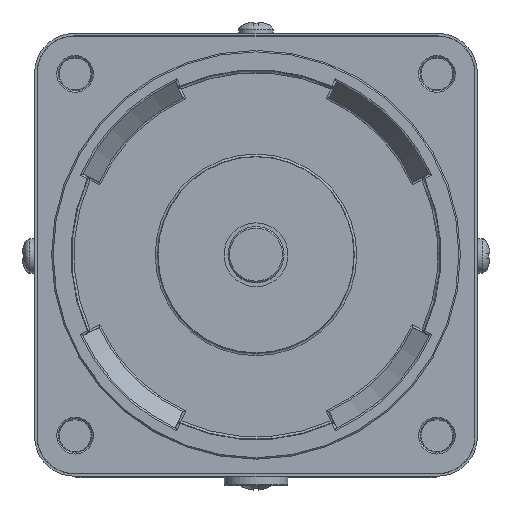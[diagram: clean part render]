
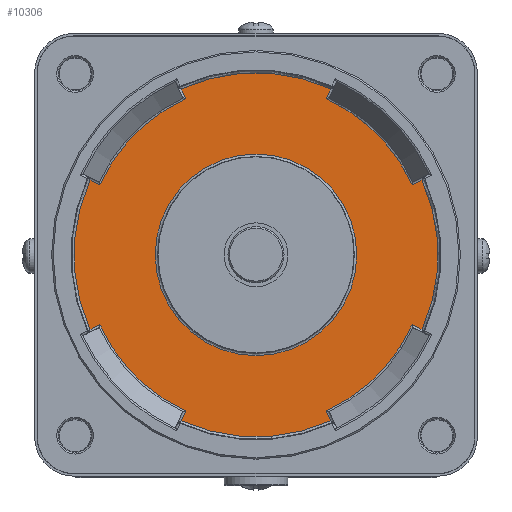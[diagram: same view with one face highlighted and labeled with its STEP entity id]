
A CAD part, top view. The second image highlights one B-rep face of the part: STEP entity #10306.
In plain terms, the highlighted planar face has unit normal (0, 0, 1).
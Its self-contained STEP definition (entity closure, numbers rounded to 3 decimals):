
#119 = DIRECTION ( 'NONE',  ( 1., 0., 0. ) ) ;
#202 = VERTEX_POINT ( 'NONE', #7850 ) ;
#356 = LINE ( 'NONE', #1412, #6315 ) ;
#436 = VERTEX_POINT ( 'NONE', #4239 ) ;
#474 = EDGE_CURVE ( 'NONE', #2074, #4623, #9477, .T. ) ;
#632 = CARTESIAN_POINT ( 'NONE',  ( 0., 0., -2.5 ) ) ;
#718 = DIRECTION ( 'NONE',  ( 1., 0., 0. ) ) ;
#967 = CIRCLE ( 'NONE', #13574, 37.013 ) ;
#1039 = VERTEX_POINT ( 'NONE', #12535 ) ;
#1179 = DIRECTION ( 'NONE',  ( 0., 0., 1. ) ) ;
#1412 = CARTESIAN_POINT ( 'NONE',  ( -31.932, -14.338, -2.5 ) ) ;
#1661 = CARTESIAN_POINT ( 'NONE',  ( 0., 0., -2.5 ) ) ;
#1716 = LINE ( 'NONE', #6025, #12448 ) ;
#1773 = CARTESIAN_POINT ( 'NONE',  ( 0., 0., -2.5 ) ) ;
#1875 = VERTEX_POINT ( 'NONE', #13392 ) ;
#2074 = VERTEX_POINT ( 'NONE', #4703 ) ;
#2097 = VECTOR ( 'NONE', #11903, 1000. ) ;
#2190 = EDGE_CURVE ( 'NONE', #3700, #2829, #7030, .T. ) ;
#2225 = LINE ( 'NONE', #4414, #8191 ) ;
#2254 = CIRCLE ( 'NONE', #8118, 34.775 ) ;
#2317 = ORIENTED_EDGE ( 'NONE', *, *, #10233, .T. ) ;
#2352 = VERTEX_POINT ( 'NONE', #5754 ) ;
#2433 = ORIENTED_EDGE ( 'NONE', *, *, #2190, .T. ) ;
#2642 = ORIENTED_EDGE ( 'NONE', *, *, #8923, .T. ) ;
#2749 = AXIS2_PLACEMENT_3D ( 'NONE', #9372, #3086, #13787 ) ;
#2769 = DIRECTION ( 'NONE',  ( 0., 0., 1. ) ) ;
#2829 = VERTEX_POINT ( 'NONE', #4672 ) ;
#2999 = ORIENTED_EDGE ( 'NONE', *, *, #6378, .T. ) ;
#3086 = DIRECTION ( 'NONE',  ( 0., 0., 1. ) ) ;
#3092 = CARTESIAN_POINT ( 'NONE',  ( 0.211, 0.453, -2.5 ) ) ;
#3176 = EDGE_LOOP ( 'NONE', ( #2642, #10543, #3702, #13702, #5314, #2433, #2999, #7935, #8210, #3765, #10913, #5411, #7352, #12036, #6890, #3340 ) ) ;
#3202 = CARTESIAN_POINT ( 'NONE',  ( 33.753, -15.188, -2.5 ) ) ;
#3340 = ORIENTED_EDGE ( 'NONE', *, *, #11920, .T. ) ;
#3382 = EDGE_CURVE ( 'NONE', #1039, #3700, #2225, .T. ) ;
#3421 = AXIS2_PLACEMENT_3D ( 'NONE', #5813, #12163, #12244 ) ;
#3627 = CIRCLE ( 'NONE', #11054, 20.491 ) ;
#3649 = CARTESIAN_POINT ( 'NONE',  ( -31.725, 14.242, -2.5 ) ) ;
#3700 = VERTEX_POINT ( 'NONE', #5044 ) ;
#3702 = ORIENTED_EDGE ( 'NONE', *, *, #12925, .T. ) ;
#3765 = ORIENTED_EDGE ( 'NONE', *, *, #474, .T. ) ;
#3883 = CIRCLE ( 'NONE', #3421, 34.775 ) ;
#3926 = DIRECTION ( 'NONE',  ( 1., 0., 0. ) ) ;
#4171 = LINE ( 'NONE', #5293, #5384 ) ;
#4208 = DIRECTION ( 'NONE',  ( 0., 0., 1. ) ) ;
#4239 = CARTESIAN_POINT ( 'NONE',  ( -14.242, -31.725, -2.5 ) ) ;
#4263 = VERTEX_POINT ( 'NONE', #11084 ) ;
#4414 = CARTESIAN_POINT ( 'NONE',  ( -0.453, 0.211, -2.5 ) ) ;
#4440 = DIRECTION ( 'NONE',  ( 0., 0., 1. ) ) ;
#4606 = LINE ( 'NONE', #7583, #11844 ) ;
#4623 = VERTEX_POINT ( 'NONE', #12329 ) ;
#4672 = CARTESIAN_POINT ( 'NONE',  ( -15.188, 33.753, -2.5 ) ) ;
#4685 = DIRECTION ( 'NONE',  ( -0.423, 0.906, 0. ) ) ;
#4703 = CARTESIAN_POINT ( 'NONE',  ( -33.753, 15.188, -2.5 ) ) ;
#4761 = CARTESIAN_POINT ( 'NONE',  ( 14.338, -31.932, -2.5 ) ) ;
#4943 = CARTESIAN_POINT ( 'NONE',  ( 0., 0., -2.5 ) ) ;
#4999 = EDGE_CURVE ( 'NONE', #2352, #8194, #8219, .T. ) ;
#5044 = CARTESIAN_POINT ( 'NONE',  ( 15.188, 33.753, -2.5 ) ) ;
#5053 = FACE_BOUND ( 'NONE', #11175, .T. ) ;
#5220 = VERTEX_POINT ( 'NONE', #5451 ) ;
#5277 = VERTEX_POINT ( 'NONE', #3202 ) ;
#5293 = CARTESIAN_POINT ( 'NONE',  ( 0.453, -0.211, -2.5 ) ) ;
#5314 = ORIENTED_EDGE ( 'NONE', *, *, #3382, .T. ) ;
#5384 = VECTOR ( 'NONE', #12971, 1000. ) ;
#5411 = ORIENTED_EDGE ( 'NONE', *, *, #11593, .T. ) ;
#5451 = CARTESIAN_POINT ( 'NONE',  ( 31.725, -14.242, -2.5 ) ) ;
#5697 = LINE ( 'NONE', #12184, #2097 ) ;
#5754 = CARTESIAN_POINT ( 'NONE',  ( 15.188, -33.753, -2.5 ) ) ;
#5760 = VERTEX_POINT ( 'NONE', #13324 ) ;
#5813 = CARTESIAN_POINT ( 'NONE',  ( 0., 0., -2.5 ) ) ;
#5973 = DIRECTION ( 'NONE',  ( 0., 0., -1. ) ) ;
#6025 = CARTESIAN_POINT ( 'NONE',  ( -0.211, -0.453, -2.5 ) ) ;
#6083 = AXIS2_PLACEMENT_3D ( 'NONE', #1773, #6088, #718 ) ;
#6088 = DIRECTION ( 'NONE',  ( 0., 0., 1. ) ) ;
#6178 = DIRECTION ( 'NONE',  ( 1., 0., 0. ) ) ;
#6218 = VECTOR ( 'NONE', #4685, 1000. ) ;
#6315 = VECTOR ( 'NONE', #6922, 1000. ) ;
#6378 = EDGE_CURVE ( 'NONE', #2829, #5760, #4606, .T. ) ;
#6890 = ORIENTED_EDGE ( 'NONE', *, *, #4999, .T. ) ;
#6922 = DIRECTION ( 'NONE',  ( 0.906, 0.423, 0. ) ) ;
#7030 = CIRCLE ( 'NONE', #2749, 37.013 ) ;
#7078 = DIRECTION ( 'NONE',  ( 1., 0., 0. ) ) ;
#7352 = ORIENTED_EDGE ( 'NONE', *, *, #8448, .T. ) ;
#7423 = VECTOR ( 'NONE', #7603, 1000. ) ;
#7432 = AXIS2_PLACEMENT_3D ( 'NONE', #632, #8328, #10525 ) ;
#7583 = CARTESIAN_POINT ( 'NONE',  ( -14.338, 31.932, -2.5 ) ) ;
#7589 = VERTEX_POINT ( 'NONE', #9003 ) ;
#7603 = DIRECTION ( 'NONE',  ( 0.906, -0.423, 0. ) ) ;
#7735 = DIRECTION ( 'NONE',  ( 0.423, 0.906, 0. ) ) ;
#7850 = CARTESIAN_POINT ( 'NONE',  ( 33.753, 15.188, -2.5 ) ) ;
#7935 = ORIENTED_EDGE ( 'NONE', *, *, #9194, .T. ) ;
#8009 = EDGE_CURVE ( 'NONE', #7589, #1039, #2254, .T. ) ;
#8118 = AXIS2_PLACEMENT_3D ( 'NONE', #4943, #2769, #7078 ) ;
#8191 = VECTOR ( 'NONE', #7735, 1000. ) ;
#8194 = VERTEX_POINT ( 'NONE', #9046 ) ;
#8196 = EDGE_CURVE ( 'NONE', #4623, #13482, #356, .T. ) ;
#8210 = ORIENTED_EDGE ( 'NONE', *, *, #12286, .T. ) ;
#8219 = LINE ( 'NONE', #4761, #6218 ) ;
#8298 = CARTESIAN_POINT ( 'NONE',  ( 0., 0., -2.5 ) ) ;
#8328 = DIRECTION ( 'NONE',  ( 0., 0., 1. ) ) ;
#8448 = EDGE_CURVE ( 'NONE', #436, #4263, #4171, .T. ) ;
#8767 = DIRECTION ( 'NONE',  ( 0.423, -0.906, 0. ) ) ;
#8923 = EDGE_CURVE ( 'NONE', #5220, #5277, #12883, .T. ) ;
#9003 = CARTESIAN_POINT ( 'NONE',  ( 31.725, 14.242, -2.5 ) ) ;
#9046 = CARTESIAN_POINT ( 'NONE',  ( 14.242, -31.725, -2.5 ) ) ;
#9158 = PLANE ( 'NONE',  #10388 ) ;
#9194 = EDGE_CURVE ( 'NONE', #5760, #13098, #10814, .T. ) ;
#9289 = FACE_OUTER_BOUND ( 'NONE', #3176, .T. ) ;
#9296 = AXIS2_PLACEMENT_3D ( 'NONE', #8298, #4208, #12589 ) ;
#9372 = CARTESIAN_POINT ( 'NONE',  ( 0., 0., -2.5 ) ) ;
#9464 = EDGE_CURVE ( 'NONE', #5277, #202, #11710, .T. ) ;
#9477 = CIRCLE ( 'NONE', #10820, 37.013 ) ;
#10056 = CARTESIAN_POINT ( 'NONE',  ( -31.725, -14.242, -2.5 ) ) ;
#10198 = CIRCLE ( 'NONE', #9296, 34.775 ) ;
#10233 = EDGE_CURVE ( 'NONE', #1875, #1875, #3627, .T. ) ;
#10306 = ADVANCED_FACE ( 'NONE', ( #9289, #5053 ), #9158, .T. ) ;
#10388 = AXIS2_PLACEMENT_3D ( 'NONE', #1661, #12460, #3926 ) ;
#10525 = DIRECTION ( 'NONE',  ( 1., 0., 0. ) ) ;
#10543 = ORIENTED_EDGE ( 'NONE', *, *, #9464, .T. ) ;
#10732 = DIRECTION ( 'NONE',  ( 1., 0., 0. ) ) ;
#10814 = CIRCLE ( 'NONE', #6083, 34.775 ) ;
#10820 = AXIS2_PLACEMENT_3D ( 'NONE', #11786, #4440, #10732 ) ;
#10913 = ORIENTED_EDGE ( 'NONE', *, *, #8196, .T. ) ;
#11054 = AXIS2_PLACEMENT_3D ( 'NONE', #13440, #5973, #6178 ) ;
#11084 = CARTESIAN_POINT ( 'NONE',  ( -15.188, -33.753, -2.5 ) ) ;
#11175 = EDGE_LOOP ( 'NONE', ( #2317 ) ) ;
#11593 = EDGE_CURVE ( 'NONE', #13482, #436, #3883, .T. ) ;
#11710 = CIRCLE ( 'NONE', #7432, 37.013 ) ;
#11786 = CARTESIAN_POINT ( 'NONE',  ( 0., 0., -2.5 ) ) ;
#11844 = VECTOR ( 'NONE', #8767, 1000. ) ;
#11903 = DIRECTION ( 'NONE',  ( -0.906, -0.423, 0. ) ) ;
#11920 = EDGE_CURVE ( 'NONE', #8194, #5220, #10198, .T. ) ;
#12036 = ORIENTED_EDGE ( 'NONE', *, *, #12957, .T. ) ;
#12163 = DIRECTION ( 'NONE',  ( 0., 0., 1. ) ) ;
#12184 = CARTESIAN_POINT ( 'NONE',  ( 31.932, 14.338, -2.5 ) ) ;
#12244 = DIRECTION ( 'NONE',  ( 1., 0., 0. ) ) ;
#12286 = EDGE_CURVE ( 'NONE', #13098, #2074, #1716, .T. ) ;
#12329 = CARTESIAN_POINT ( 'NONE',  ( -33.753, -15.188, -2.5 ) ) ;
#12448 = VECTOR ( 'NONE', #13210, 1000. ) ;
#12460 = DIRECTION ( 'NONE',  ( 0., 0., 1. ) ) ;
#12535 = CARTESIAN_POINT ( 'NONE',  ( 14.242, 31.725, -2.5 ) ) ;
#12589 = DIRECTION ( 'NONE',  ( 1., 0., 0. ) ) ;
#12883 = LINE ( 'NONE', #3092, #7423 ) ;
#12925 = EDGE_CURVE ( 'NONE', #202, #7589, #5697, .T. ) ;
#12957 = EDGE_CURVE ( 'NONE', #4263, #2352, #967, .T. ) ;
#12971 = DIRECTION ( 'NONE',  ( -0.423, -0.906, 0. ) ) ;
#13098 = VERTEX_POINT ( 'NONE', #3649 ) ;
#13165 = CARTESIAN_POINT ( 'NONE',  ( 0., 0., -2.5 ) ) ;
#13210 = DIRECTION ( 'NONE',  ( -0.906, 0.423, 0. ) ) ;
#13324 = CARTESIAN_POINT ( 'NONE',  ( -14.242, 31.725, -2.5 ) ) ;
#13392 = CARTESIAN_POINT ( 'NONE',  ( 20.491, 0., -2.5 ) ) ;
#13440 = CARTESIAN_POINT ( 'NONE',  ( 0., 0., -2.5 ) ) ;
#13482 = VERTEX_POINT ( 'NONE', #10056 ) ;
#13574 = AXIS2_PLACEMENT_3D ( 'NONE', #13165, #1179, #119 ) ;
#13702 = ORIENTED_EDGE ( 'NONE', *, *, #8009, .T. ) ;
#13787 = DIRECTION ( 'NONE',  ( 1., 0., 0. ) ) ;
